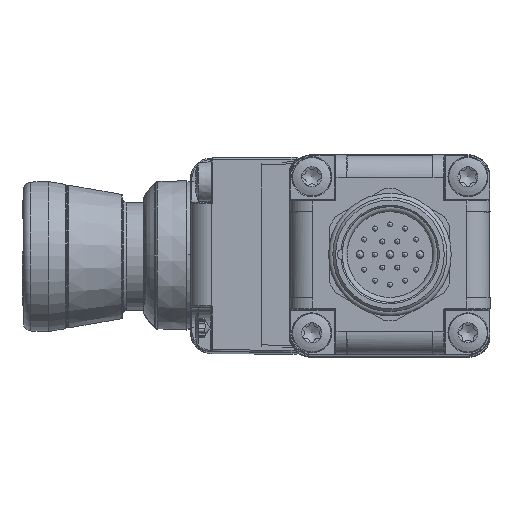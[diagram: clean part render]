
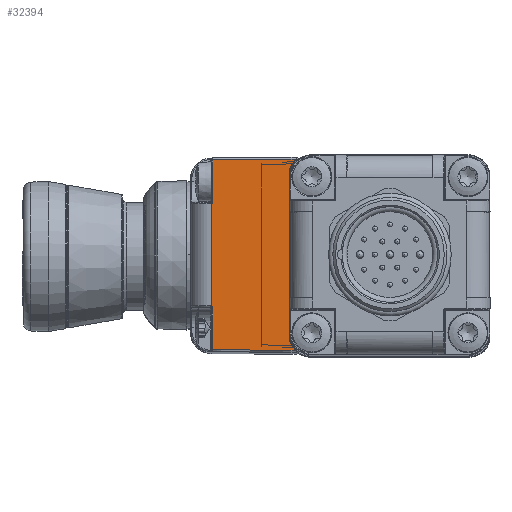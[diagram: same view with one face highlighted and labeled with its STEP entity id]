
A CAD part, top view. The second image highlights one B-rep face of the part: STEP entity #32394.
In plain terms, the highlighted planar face has unit normal (-0.009, 0, 1).
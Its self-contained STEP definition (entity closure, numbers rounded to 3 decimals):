
#795=ELLIPSE('',#35070,4.,4.);
#796=ELLIPSE('',#35072,0.3,0.3);
#801=ELLIPSE('',#35103,0.3,0.3);
#802=ELLIPSE('',#35105,4.,4.);
#810=ELLIPSE('',#35156,0.39,0.39);
#812=ELLIPSE('',#35176,0.39,0.39);
#1879=PLANE('',#35175);
#2909=FACE_OUTER_BOUND('',#4983,.T.);
#4983=EDGE_LOOP('',(#24759,#24760,#24761,#24762,#24763,#24764,#24765,#24766,
#24767,#24768,#24769,#24770,#24771,#24772,#24773,#24774,#24775,#24776));
#8236=CIRCLE('',#35027,0.1);
#8239=CIRCLE('',#35031,0.1);
#10086=LINE('',#56984,#11856);
#10111=LINE('',#57123,#11881);
#10116=LINE('',#57212,#11886);
#10119=LINE('',#57367,#11889);
#10121=LINE('',#57425,#11891);
#10137=LINE('',#57616,#11907);
#10140=LINE('',#57704,#11910);
#10146=LINE('',#57796,#11916);
#10147=LINE('',#57800,#11917);
#10148=LINE('',#57802,#11918);
#11856=VECTOR('',#40767,10.);
#11881=VECTOR('',#40854,10.);
#11886=VECTOR('',#40875,10.);
#11889=VECTOR('',#40906,10.);
#11891=VECTOR('',#40934,10.);
#11907=VECTOR('',#41034,10.);
#11910=VECTOR('',#41059,10.);
#11916=VECTOR('',#41105,10.);
#11917=VECTOR('',#41108,10.);
#11918=VECTOR('',#41111,10.);
#14086=VERTEX_POINT('',#56939);
#14087=VERTEX_POINT('',#56941);
#14090=VERTEX_POINT('',#56972);
#14091=VERTEX_POINT('',#56974);
#14094=VERTEX_POINT('',#56981);
#14126=VERTEX_POINT('',#57120);
#14130=VERTEX_POINT('',#57153);
#14131=VERTEX_POINT('',#57154);
#14132=VERTEX_POINT('',#57208);
#14137=VERTEX_POINT('',#57335);
#14140=VERTEX_POINT('',#57424);
#14141=VERTEX_POINT('',#57447);
#14173=VERTEX_POINT('',#57613);
#14177=VERTEX_POINT('',#57703);
#14178=VERTEX_POINT('',#57732);
#14186=VERTEX_POINT('',#57790);
#14187=VERTEX_POINT('',#57798);
#14188=VERTEX_POINT('',#57799);
#17854=EDGE_CURVE('',#14086,#14087,#8236,.T.);
#17858=EDGE_CURVE('',#14090,#14091,#8239,.T.);
#17863=EDGE_CURVE('',#14091,#14094,#10086,.T.);
#17908=EDGE_CURVE('',#14126,#14086,#10111,.T.);
#17914=EDGE_CURVE('',#14130,#14131,#795,.T.);
#17917=EDGE_CURVE('',#14131,#14132,#796,.T.);
#17919=EDGE_CURVE('',#14132,#14126,#10116,.T.);
#17933=EDGE_CURVE('',#14137,#14130,#10119,.T.);
#17943=EDGE_CURVE('',#14094,#14140,#10121,.T.);
#17945=EDGE_CURVE('',#14140,#14141,#801,.T.);
#17947=EDGE_CURVE('',#14141,#14137,#802,.T.);
#17997=EDGE_CURVE('',#14087,#14173,#10137,.T.);
#18008=EDGE_CURVE('',#14173,#14177,#10140,.T.);
#18011=EDGE_CURVE('',#14177,#14178,#810,.T.);
#18029=EDGE_CURVE('',#14186,#14178,#10146,.F.);
#18030=EDGE_CURVE('',#14187,#14188,#10147,.T.);
#18031=EDGE_CURVE('',#14186,#14187,#812,.T.);
#18032=EDGE_CURVE('',#14188,#14090,#10148,.T.);
#24759=ORIENTED_EDGE('',*,*,#18030,.F.);
#24760=ORIENTED_EDGE('',*,*,#18031,.F.);
#24761=ORIENTED_EDGE('',*,*,#18029,.T.);
#24762=ORIENTED_EDGE('',*,*,#18011,.F.);
#24763=ORIENTED_EDGE('',*,*,#18008,.F.);
#24764=ORIENTED_EDGE('',*,*,#17997,.F.);
#24765=ORIENTED_EDGE('',*,*,#17854,.F.);
#24766=ORIENTED_EDGE('',*,*,#17908,.F.);
#24767=ORIENTED_EDGE('',*,*,#17919,.F.);
#24768=ORIENTED_EDGE('',*,*,#17917,.F.);
#24769=ORIENTED_EDGE('',*,*,#17914,.F.);
#24770=ORIENTED_EDGE('',*,*,#17933,.F.);
#24771=ORIENTED_EDGE('',*,*,#17947,.F.);
#24772=ORIENTED_EDGE('',*,*,#17945,.F.);
#24773=ORIENTED_EDGE('',*,*,#17943,.F.);
#24774=ORIENTED_EDGE('',*,*,#17863,.F.);
#24775=ORIENTED_EDGE('',*,*,#17858,.F.);
#24776=ORIENTED_EDGE('',*,*,#18032,.F.);
#32394=ADVANCED_FACE('',(#2909),#1879,.T.);
#35027=AXIS2_PLACEMENT_3D('',#56942,#40748,#40749);
#35031=AXIS2_PLACEMENT_3D('',#56975,#40756,#40757);
#35070=AXIS2_PLACEMENT_3D('',#57155,#40865,#40866);
#35072=AXIS2_PLACEMENT_3D('',#57209,#40869,#40870);
#35103=AXIS2_PLACEMENT_3D('',#57448,#40937,#40938);
#35105=AXIS2_PLACEMENT_3D('',#57470,#40941,#40942);
#35156=AXIS2_PLACEMENT_3D('',#57733,#41063,#41064);
#35175=AXIS2_PLACEMENT_3D('',#57797,#41106,#41107);
#35176=AXIS2_PLACEMENT_3D('',#57801,#41109,#41110);
#40748=DIRECTION('center_axis',(0.009,0.,
-1.));
#40749=DIRECTION('ref_axis',(1.,0.,0.009));
#40756=DIRECTION('center_axis',(0.009,0.,
-1.));
#40757=DIRECTION('ref_axis',(1.,0.,0.009));
#40767=DIRECTION('',(0.,-1.,0.));
#40854=DIRECTION('',(0.,-1.,0.));
#40865=DIRECTION('center_axis',(-0.009,0.,
1.));
#40866=DIRECTION('ref_axis',(-1.,0.,-0.009));
#40869=DIRECTION('center_axis',(-0.009,0.,
1.));
#40870=DIRECTION('ref_axis',(-1.,0.,-0.009));
#40875=DIRECTION('',(1.,0.,0.009));
#40906=DIRECTION('',(0.,-1.,0.));
#40934=DIRECTION('',(-1.,0.,-0.009));
#40937=DIRECTION('center_axis',(-0.009,0.,
1.));
#40938=DIRECTION('ref_axis',(-1.,0.,-0.009));
#40941=DIRECTION('center_axis',(-0.009,0.,
1.));
#40942=DIRECTION('ref_axis',(-1.,0.,-0.009));
#41034=DIRECTION('',(-1.,0.009,-0.009));
#41059=DIRECTION('',(0.,1.,0.));
#41063=DIRECTION('center_axis',(-0.009,0.,
1.));
#41064=DIRECTION('ref_axis',(1.,0.,0.009));
#41105=DIRECTION('',(0.,1.,0.));
#41106=DIRECTION('center_axis',(-0.009,0.,
1.));
#41107=DIRECTION('ref_axis',(0.,1.,0.));
#41108=DIRECTION('',(0.,1.,0.));
#41109=DIRECTION('center_axis',(-0.009,0.,
1.));
#41110=DIRECTION('ref_axis',(1.,0.,0.009));
#41111=DIRECTION('',(1.,0.009,0.009));
#56939=CARTESIAN_POINT('',(-18.653,-18.996,238.926));
#56941=CARTESIAN_POINT('',(-18.754,-19.096,238.925));
#56942=CARTESIAN_POINT('Origin',(-18.753,-18.996,238.925));
#56972=CARTESIAN_POINT('',(-18.754,19.096,238.925));
#56974=CARTESIAN_POINT('',(-18.653,18.996,238.926));
#56975=CARTESIAN_POINT('Origin',(-18.753,18.996,238.925));
#56981=CARTESIAN_POINT('',(-18.653,18.9,238.926));
#56984=CARTESIAN_POINT('',(-18.653,-0.35,238.926));
#57120=CARTESIAN_POINT('',(-18.653,-18.9,238.926));
#57123=CARTESIAN_POINT('',(-18.653,-19.5,238.926));
#57153=CARTESIAN_POINT('',(-20.051,-17.085,238.913));
#57154=CARTESIAN_POINT('',(-19.047,-18.811,238.922));
#57155=CARTESIAN_POINT('Origin',(-16.201,-16.,238.947));
#57208=CARTESIAN_POINT('',(-18.833,-18.9,238.924));
#57209=CARTESIAN_POINT('Origin',(-18.833,-18.6,238.924));
#57212=CARTESIAN_POINT('',(-22.491,-18.9,238.892));
#57335=CARTESIAN_POINT('',(-20.051,17.085,238.913));
#57367=CARTESIAN_POINT('',(-20.051,-18.286,238.913));
#57424=CARTESIAN_POINT('',(-18.833,18.9,238.924));
#57425=CARTESIAN_POINT('',(-22.823,18.9,238.889));
#57447=CARTESIAN_POINT('',(-19.047,18.811,238.922));
#57448=CARTESIAN_POINT('Origin',(-18.833,18.6,238.924));
#57470=CARTESIAN_POINT('Origin',(-16.201,16.,238.947));
#57613=CARTESIAN_POINT('',(-35.413,-18.95,238.779));
#57616=CARTESIAN_POINT('',(-26.727,-19.026,238.855));
#57703=CARTESIAN_POINT('',(-35.413,-10.6,238.779));
#57704=CARTESIAN_POINT('',(-35.413,-17.05,238.779));
#57732=CARTESIAN_POINT('',(-35.736,-10.216,238.776));
#57733=CARTESIAN_POINT('Origin',(-35.803,-10.6,238.776));
#57790=CARTESIAN_POINT('',(-35.736,10.216,238.776));
#57796=CARTESIAN_POINT('',(-35.736,-9.75,238.776));
#57797=CARTESIAN_POINT('Origin',(-25.75,-19.5,238.864));
#57798=CARTESIAN_POINT('',(-35.413,10.6,238.779));
#57799=CARTESIAN_POINT('',(-35.413,18.95,238.779));
#57800=CARTESIAN_POINT('',(-35.413,-2.45,238.779));
#57801=CARTESIAN_POINT('Origin',(-35.803,10.6,238.776));
#57802=CARTESIAN_POINT('',(-25.916,19.033,238.862));
